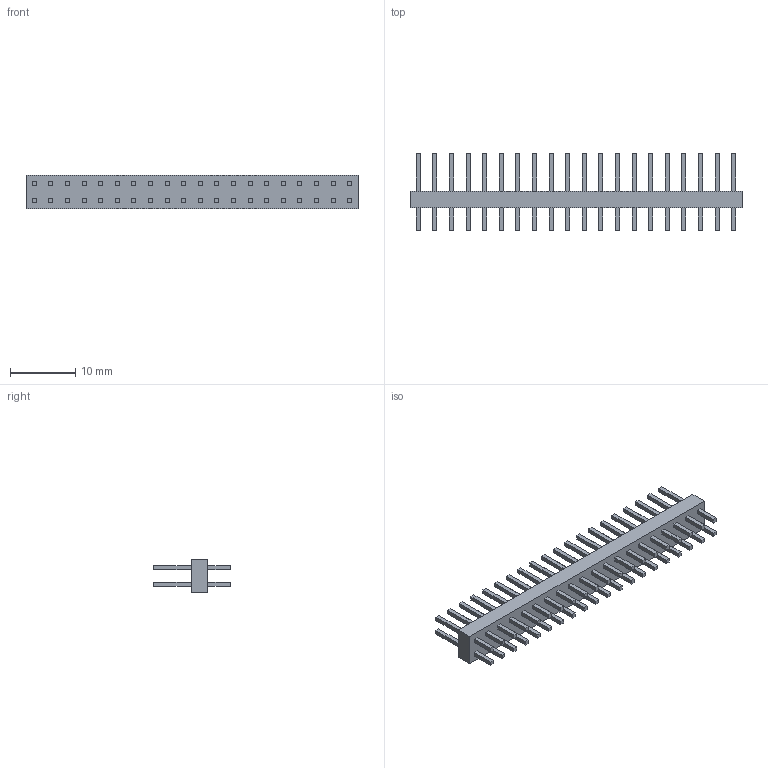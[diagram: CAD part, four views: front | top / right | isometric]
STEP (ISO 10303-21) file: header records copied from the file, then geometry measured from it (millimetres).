
FILE_DESCRIPTION(('Open CASCADE Model'),'2;1');
FILE_NAME('Open CASCADE Shape Model','2026-08-18T10:55:12',('Author'),( 'Open CASCADE'),'Open CASCADE STEP processor 7.9','Open CASCADE 7.9' ,'Unknown');
FILE_SCHEMA(('AUTOMOTIVE_DESIGN { 1 0 10303 214 1 1 1 1 }'));
Length unit declared in the file: millimetre
Products named in the file (1): gpio_header
Bounding box: 50.8 x 11.8 x 5.08 mm (x, y, z)
Volume: 797.5 mm3; surface area: 1747.8 mm2
Topology: 1 solids, 1 shells, 406 faces, 972 edges, 648 vertices
Faces by surface type: plane 406
Entity records: 23522 total; most frequent: CARTESIAN_POINT 4611, DIRECTION 3090, LINE 2276, VECTOR 2276, ORIENTED_EDGE 1944, PCURVE 1944, DEFINITIONAL_REPRESENTATION 1944, EDGE_CURVE 972
